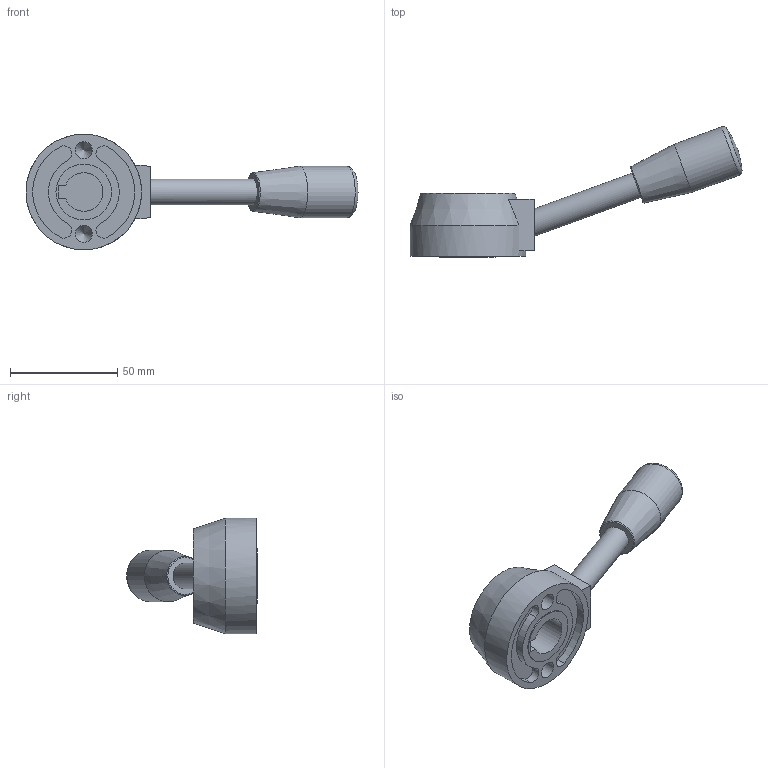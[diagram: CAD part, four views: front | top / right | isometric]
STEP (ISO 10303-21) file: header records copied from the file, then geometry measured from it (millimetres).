
FILE_DESCRIPTION( ( 'STEP AP203' ), '1' );
FILE_NAME( 'C:/Temp/Ganter_Step_05_03_2020/data/2_1/gn_512/gn_512_k/Control lever GN 512-54-K18.stp', '2020-03-05T11:51:41', ( 'License CC BY-ND 4.0' ), ( 'CADENAS' ), ' ', 'PARTsolutions', ' ' );
FILE_SCHEMA( ( 'CONFIG_CONTROL_DESIGN' ) );
Length unit declared in the file: millimetre
Products named in the file (1): _Control lever GN 512-54-K18
Bounding box: 155.09 x 61.04 x 54 mm (x, y, z)
Volume: 78208.3 mm3; surface area: 18881.4 mm2
Topology: 1 solids, 1 shells, 39 faces, 89 edges, 58 vertices
Faces by surface type: plane 16, cylinder 16, cone 4, torus 2, sphere 1
Full cylindrical faces by diameter (mm): 8 x2, 12 x1, 24 x1, 26 x1, 31 x1, 54 x1
Entity records: 1034 total; most frequent: DIRECTION 184, CARTESIAN_POINT 168, ORIENTED_EDGE 136, AXIS2_PLACEMENT_3D 78, EDGE_CURVE 68, EDGE_LOOP 59, VERTEX_POINT 54, FACE_OUTER_BOUND 48
